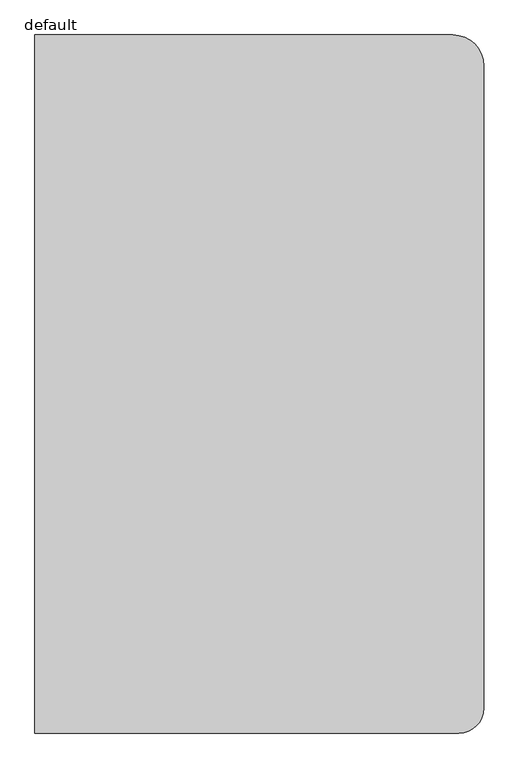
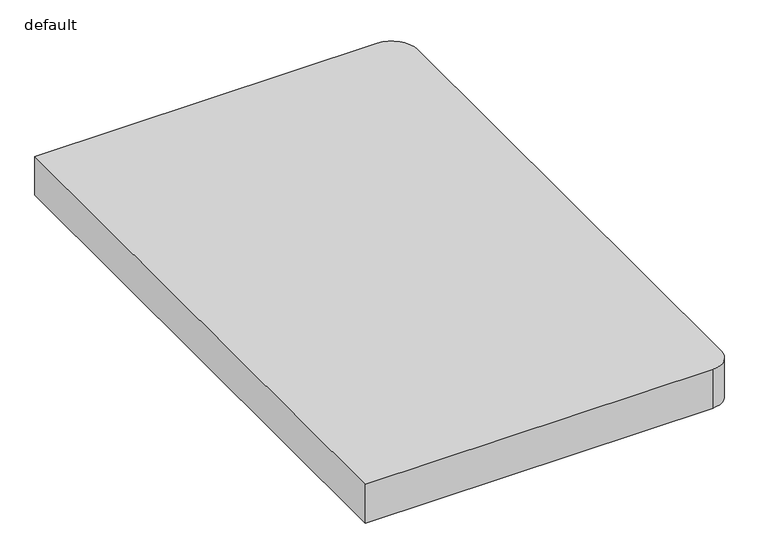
"""IFC4 building model written with IfcOpenShell, lengths in millimetres: flow terminal geometry, SP_душевой поддон_LEG : default."""

from ifc_helpers import new_model, si_unit, point, frame_2d, origin, origin_with_axes, place, context, project, spatial, polyline, circle_curve, trimmed, segment, composite_curve, outline, extrude, source, transform, mapped, element, save


def default_96a4dd6a(model_context):
    return source(origin(), model_context, "Body", "SweptSolid", [
        extrude(outline(composite_curve([segment(polyline([(0.0, 0.0), (0.0, 1400.0), (838.1, 1400.0)]), True, "CONTINUOUS"), segment(trimmed(circle_curve(frame_2d((838.1, 1338.1)), 61.9), [point((838.1, 1400.0))], [point((900.0, 1338.1))], False, "CARTESIAN"), True, "CONTINUOUS"), segment(polyline([(900.0, 1338.1), (900.0, 50.0)]), True, "CONTINUOUS"), segment(trimmed(circle_curve(frame_2d((850.0, 50.0)), 50.0), [point((900.0, 50.0))], [point((850.0, 0.0))], False, "CARTESIAN"), True, "CONTINUOUS"), segment(polyline([(850.0, 0.0), (0.0, 0.0)]), True, "CONTINUOUS")], self_intersect=False)), origin_with_axes(), (0.0, 0.0, 1.0), 100.0),
    ])


if __name__ == "__main__":
    model = new_model("IFC4")
    model_context = context("Model", 3, world=origin())
    ifc_project = project(units=[si_unit("LENGTHUNIT", "METRE", prefix="MILLI")], contexts=[model_context])
    site = spatial("IfcSite", under=ifc_project)
    building = spatial("IfcBuilding", under=site)
    placement = place(None, origin())
    default_shape = default_96a4dd6a(model_context)
    element("IfcFlowTerminal", 1, ObjectType="SP_душевой поддон_LEG : default", at=placement, inside=building, context=model_context, shape_type="MappedRepresentation", body=[
        mapped(default_shape, transform((0.0, 0.0, 0.0), x_axis=(1.0, 0.0, 0.0), y_axis=(0.0, 1.0, 0.0), z_axis=(0.0, 0.0, 1.0))),
    ])
    save(model, "model.ifc")
